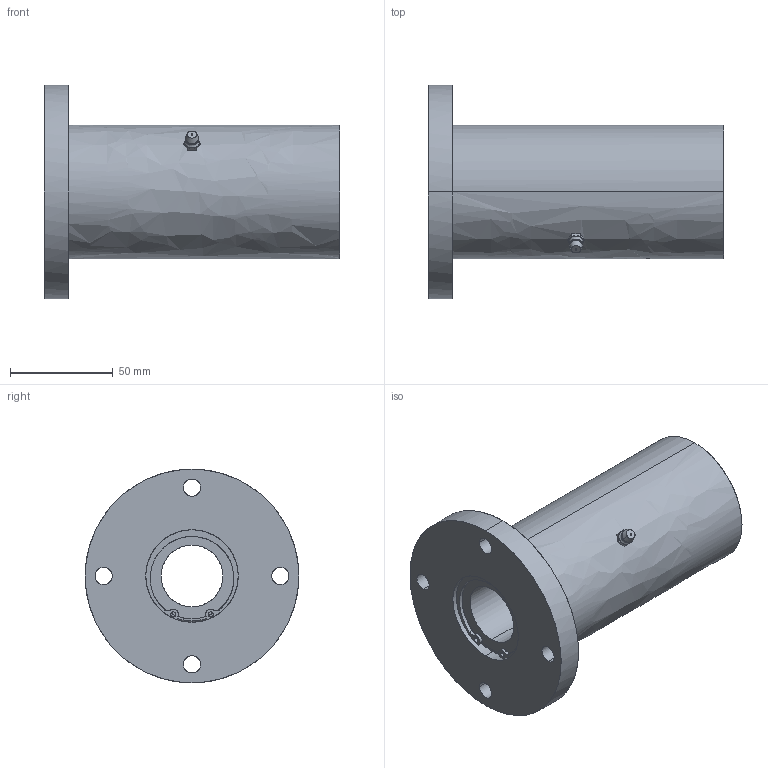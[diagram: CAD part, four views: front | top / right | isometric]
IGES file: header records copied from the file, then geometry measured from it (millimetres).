
Global section: file name: No Iges File Name specified; native system: AutoDesk Inventor R10; preprocessor: AutoDesk Inventor Iges Exporter R10; author: No Author specified; organization: No Organization specified; date: 20101214.142051; units: millimetre
Bounding box: 144 x 104 x 104 mm (x, y, z)
Surface area: 69595.7 mm2 (no closed solid volume)
Topology: 0 solids, 0 shells, 147 faces, 1057 edges, 1055 vertices
Faces by surface type: bspline 147
